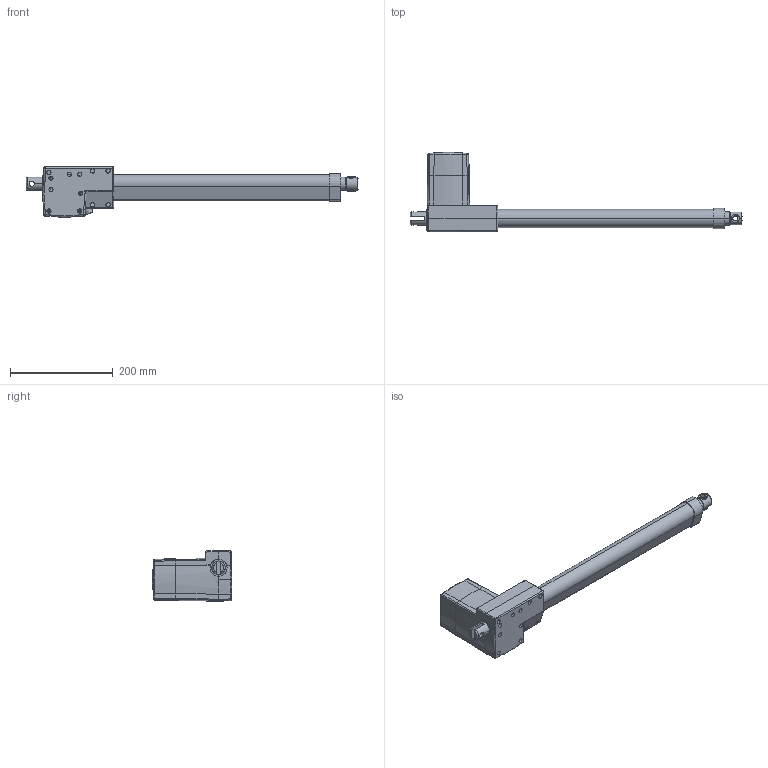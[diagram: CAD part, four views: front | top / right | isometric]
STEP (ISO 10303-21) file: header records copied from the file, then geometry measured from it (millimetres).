
FILE_DESCRIPTION (( 'STEP AP203' ), '1' );
FILE_NAME ('LAM3-S400.STEP', '2013-12-23T06:12:45', ( '' ), ( '' ), 'SwSTEP 2.0', 'SolidWorks 2010', '' );
FILE_SCHEMA (( 'CONFIG_CONTROL_DESIGN' ));
Length unit declared in the file: millimetre
Products named in the file (1): LAM3-S400
Bounding box: 645 x 155 x 98 mm (x, y, z)
Surface area: 177205.8 mm2 (no closed solid volume)
Topology: 0 solids, 18 shells, 354 faces, 1291 edges, 907 vertices
Faces by surface type: plane 145, cylinder 120, bspline 47, cone 42
Entity records: 16024 total; most frequent: CARTESIAN_POINT 6190, ORIENTED_EDGE 2008, DIRECTION 1788, EDGE_CURVE 1271, VERTEX_POINT 907, AXIS2_PLACEMENT_3D 658, LINE 472, VECTOR 472
